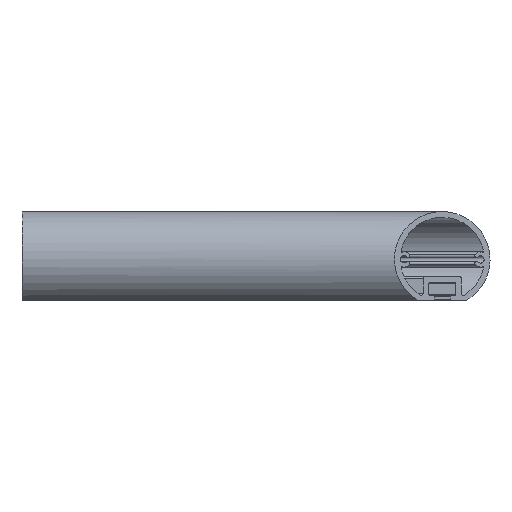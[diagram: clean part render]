
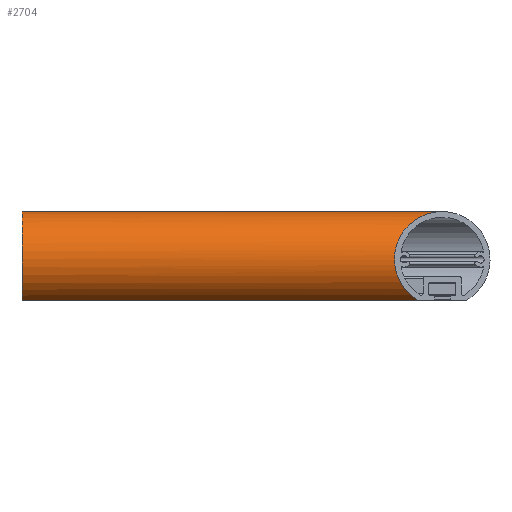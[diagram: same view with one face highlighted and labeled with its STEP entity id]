
A CAD part, top view. The second image highlights one B-rep face of the part: STEP entity #2704.
In plain terms, the highlighted cylindrical face has radius 25 mm (diameter 50 mm), a partial arc.
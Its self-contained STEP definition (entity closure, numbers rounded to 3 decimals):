
#1296=ELLIPSE('',#2572,35.355,25.);
#1326=CIRCLE('',#2571,25.);
#1356=ORIENTED_EDGE('',*,*,#1824,.F.);
#1357=ORIENTED_EDGE('',*,*,#1825,.T.);
#1358=ORIENTED_EDGE('',*,*,#1826,.T.);
#1359=ORIENTED_EDGE('',*,*,#1827,.T.);
#1608=VECTOR('',#2044,1.);
#1609=VECTOR('',#2047,1.);
#1674=LINE('',#2319,#1608);
#1675=LINE('',#2323,#1609);
#1740=VERTEX_POINT('',#2317);
#1741=VERTEX_POINT('',#2318);
#1742=VERTEX_POINT('',#2320);
#1743=VERTEX_POINT('',#2322);
#1824=EDGE_CURVE('',#1740,#1741,#1674,.T.);
#1825=EDGE_CURVE('',#1740,#1742,#1326,.T.);
#1826=EDGE_CURVE('',#1742,#1743,#1675,.T.);
#1827=EDGE_CURVE('',#1743,#1741,#1296,.T.);
#1950=EDGE_LOOP('',(#1356,#1357,#1358,#1359));
#1996=FACE_BOUND('',#1950,.T.);
#2042=DIRECTION('',(1.,0.,0.));
#2043=DIRECTION('',(0.,-0.86,-0.51));
#2044=DIRECTION('',(232.732,0.,0.));
#2045=DIRECTION('',(1.,0.,0.));
#2046=DIRECTION('',(0.,-21.5,-12.757));
#2047=DIRECTION('',(207.218,0.,0.));
#2048=DIRECTION('',(-0.707,0.,-0.707));
#2049=DIRECTION('',(-0.707,0.,0.707));
#2316=CARTESIAN_POINT('',(0.,-25.,25.));
#2317=CARTESIAN_POINT('',(0.,-46.5,12.243));
#2318=CARTESIAN_POINT('',(232.732,-46.5,12.243));
#2319=CARTESIAN_POINT('',(0.,-46.5,12.243));
#2320=CARTESIAN_POINT('',(0.,-46.5,37.757));
#2321=CARTESIAN_POINT('',(0.,-25.,25.));
#2322=CARTESIAN_POINT('',(207.218,-46.5,37.757));
#2323=CARTESIAN_POINT('',(0.,-46.5,37.757));
#2324=CARTESIAN_POINT('',(219.975,-25.,25.));
#2570=AXIS2_PLACEMENT_3D('',#2316,#2042,#2043);
#2571=AXIS2_PLACEMENT_3D('',#2321,#2045,#2046);
#2572=AXIS2_PLACEMENT_3D('',#2324,#2048,#2049);
#2674=CYLINDRICAL_SURFACE('',#2570,25.);
#2704=ADVANCED_FACE('',(#1996),#2674,.T.);
